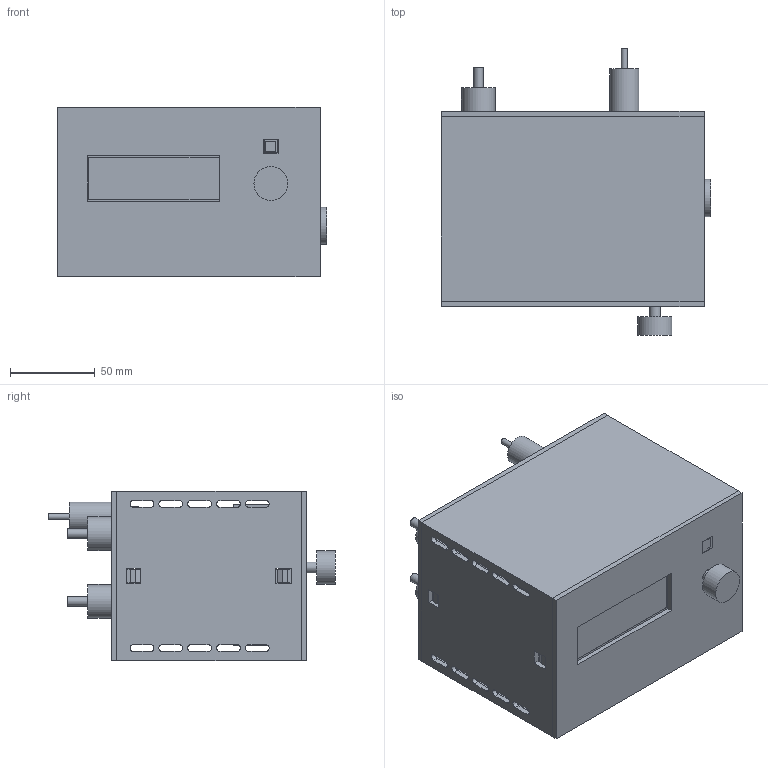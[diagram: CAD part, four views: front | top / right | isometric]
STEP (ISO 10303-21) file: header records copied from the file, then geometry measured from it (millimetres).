
FILE_DESCRIPTION(('Open CASCADE Model'),'2;1');
FILE_NAME('Open CASCADE Shape Model','2026-11-06T18:44:25',('Author'),( 'Open CASCADE'),'Open CASCADE STEP processor 7.8','Open CASCADE 7.8' ,'Unknown');
FILE_SCHEMA(('AUTOMOTIVE_DESIGN { 1 0 10303 214 1 1 1 1 }'));
Length unit declared in the file: millimetre
Products named in the file (113): Laboratory_controller_fit_study_v09; 01_Pieces_imprimees; 01_Shell_open_front_and_rear; 02_Removable_front_LCD_A; 03_B_removable_carrier; 04_Rear_panel_with_latches; 05_Translucent_optical_insert; 06_BH1750_removable_carrier; 02_Carte_A_reference; PCB_A; A_C1_ENVELOPE; A_C2_ENVELOPE; A_C3_ENVELOPE; A_D1_ENVELOPE; A_D2_ENVELOPE; A_J1_ENVELOPE; A_J2_ENVELOPE; A_J3_ENVELOPE; A_J4_ENVELOPE; A_J5_ENVELOPE; A_J6_ENVELOPE; A_J7_ENVELOPE; A_JP1_ENVELOPE; A_R1_ENVELOPE; A_R2_ENVELOPE; A_R3_ENVELOPE; A_R4_ENVELOPE; A_R5_ENVELOPE; A_R6_ENVELOPE; A_R7_ENVELOPE; A_U2_ENVELOPE; A_DEVKIT_SOCKET_1; A_DEVKIT_MALE_HEADER_SPACER_1; A_DEVKIT_SOCKET_2; A_DEVKIT_MALE_HEADER_SPACER_2; A_DEVKIT_PCB_REFERENCE_54x27; A_DEVKIT_RF_SHIELD_ENVELOPE; A_DEVKIT_USB_BRIDGE_ENVELOPE; A_DEVKIT_USB_C_ENVELOPE; 03_Carte_B_reference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
Assembly tree (112 placements, depth 3):
  Laboratory_controller_fit_study_v09
    01_Pieces_imprimees
      01_Shell_open_front_and_rear
      02_Removable_front_LCD_A
      03_B_removable_carrier
      04_Rear_panel_with_latches
      05_Translucent_optical_insert
      06_BH1750_removable_carrier
    02_Carte_A_reference
      PCB_A
      A_C1_ENVELOPE
      A_C2_ENVELOPE
      A_C3_ENVELOPE
      A_D1_ENVELOPE
      A_D2_ENVELOPE
      A_J1_ENVELOPE
      A_J2_ENVELOPE
      A_J3_ENVELOPE
      A_J4_ENVELOPE
      A_J5_ENVELOPE
      A_J6_ENVELOPE
      A_J7_ENVELOPE
      A_JP1_ENVELOPE
      A_R1_ENVELOPE
      A_R2_ENVELOPE
      A_R3_ENVELOPE
      A_R4_ENVELOPE
      A_R5_ENVELOPE
      A_R6_ENVELOPE
      A_R7_ENVELOPE
      A_U2_ENVELOPE
      A_DEVKIT_SOCKET_1
      A_DEVKIT_MALE_HEADER_SPACER_1
      A_DEVKIT_SOCKET_2
      A_DEVKIT_MALE_HEADER_SPACER_2
      A_DEVKIT_PCB_REFERENCE_54x27
      A_DEVKIT_RF_SHIELD_ENVELOPE
      A_DEVKIT_USB_BRIDGE_ENVELOPE
      A_DEVKIT_USB_C_ENVELOPE
    03_Carte_B_reference
      PCB_B
      B_C1_ENVELOPE
      B_C10_ENVELOPE
      B_C2_ENVELOPE
      B_C3_ENVELOPE
      B_C4_ENVELOPE
      B_C5_ENVELOPE
      B_C6_ENVELOPE
      B_C7_ENVELOPE
      B_C8_ENVELOPE
      B_C9_ENVELOPE
      B_D2_ENVELOPE
      B_D3_ENVELOPE
      B_D4_ENVELOPE
      B_D5_ENVELOPE
      B_D6_ENVELOPE
      B_D7_ENVELOPE
      B_D8_ENVELOPE
      B_D9_ENVELOPE
      B_F1_ENVELOPE
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Bounding box: 159 x 169 x 100 mm (x, y, z)
Volume: 423637.6 mm3; surface area: 321640.9 mm2
Topology: 105 solids, 105 shells, 1204 faces, 2843 edges, 1883 vertices
Faces by surface type: plane 1119, cylinder 85
Full cylindrical faces by diameter (mm): 2.2 x12, 3 x3, 3.5 x1, 4.3 x1, 5.5 x2, 6.3 x2, 6.4 x1, 7.2 x1, 8 x1, 12 x6, 12.4 x1, 12.5 x2, 15 x2, 16 x1, 17 x2, 20 x5, 22 x2
Entity records: 72954 total; most frequent: CARTESIAN_POINT 13133, DIRECTION 10221, LINE 7022, VECTOR 7022, ORIENTED_EDGE 5686, PCURVE 5686, DEFINITIONAL_REPRESENTATION 5686, EDGE_CURVE 2843
